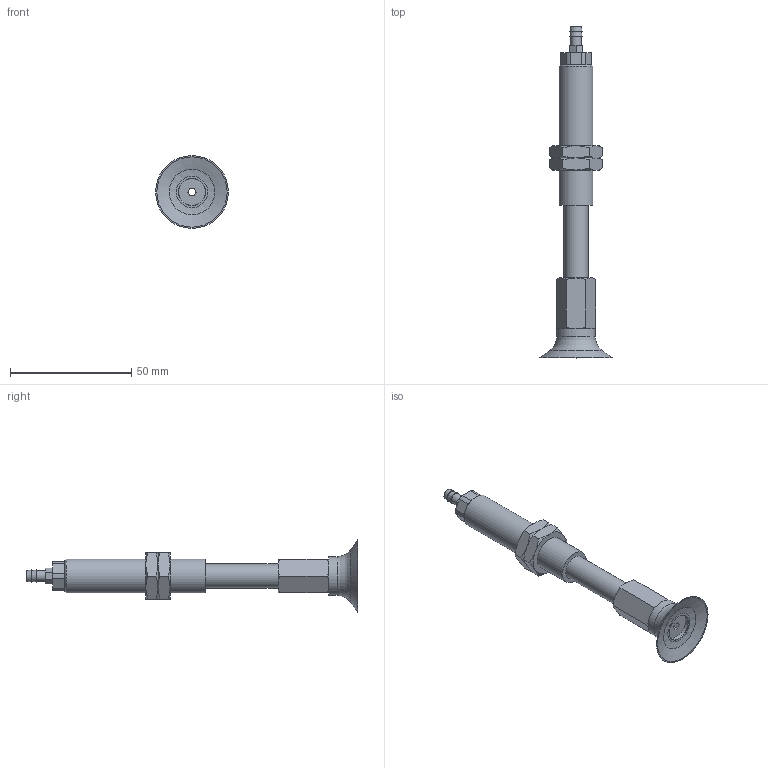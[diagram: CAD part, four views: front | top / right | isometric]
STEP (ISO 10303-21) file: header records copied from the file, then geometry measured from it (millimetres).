
FILE_DESCRIPTION(('STEP AP203'),'1');
FILE_NAME('-T.stp','2025-08-27T06:04:55',(' '),(' '),'Spatial InterOp 3D',' ',' ');
FILE_SCHEMA(('CONFIG_CONTROL_DESIGN'));
Length unit declared in the file: millimetre
Products named in the file (8): BNABPFTS-30-30-※-T; ADAPTER; NAPFTS-30-30-MBODY; TN-PF-30-M6-NAPF; Nut-30-30-s; NAPFTS-30-30-FBODY; BPFG-30-※; T
Assembly tree (8 placements, depth 2):
  BNABPFTS-30-30-※-T
    ADAPTER
    NAPFTS-30-30-MBODY
    TN-PF-30-M6-NAPF
    Nut-30-30-s  x2
    NAPFTS-30-30-FBODY
    BPFG-30-※
    T
Bounding box: 30 x 137 x 30 mm (x, y, z)
Volume: 19191.3 mm3; surface area: 15015 mm2
Topology: 8 solids, 8 shells, 147 faces, 307 edges, 186 vertices
Faces by surface type: plane 68, cone 49, cylinder 24, torus 5, bspline 1
Full cylindrical faces by diameter (mm): 3 x4, 4.134 x1, 4.3 x1, 4.917 x1, 5 x1, 6 x2, 10 x2, 11 x2, 12.917 x2, 14 x1, 16 x1
Entity records: 3763 total; most frequent: CARTESIAN_POINT 872, DIRECTION 532, ORIENTED_EDGE 442, AXIS2_PLACEMENT_3D 227, EDGE_CURVE 221, EDGE_LOOP 182, VERTEX_POINT 155, FACE_OUTER_BOUND 147
